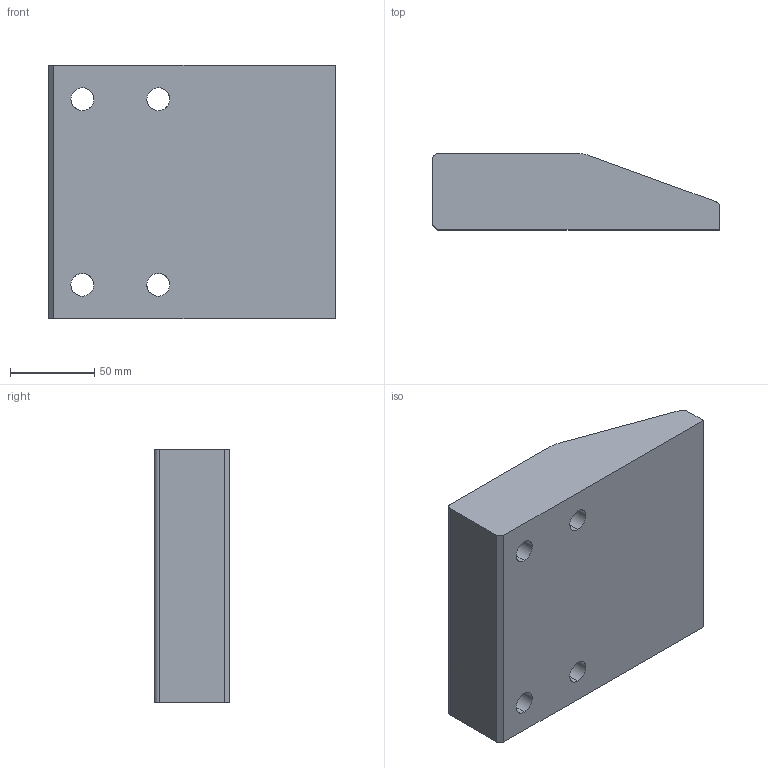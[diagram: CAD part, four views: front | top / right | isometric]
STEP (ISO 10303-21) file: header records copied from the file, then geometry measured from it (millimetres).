
FILE_DESCRIPTION(('CATIA V5 STEP Exchange'),'2;1');
FILE_NAME('C:\Users\Raffaele\Desktop\3D X SITO CF\A935\GSB_OILLESS_G2290115017045\STEP-2.03\A935-15017045.stp','2019-07-12T07:44:16+00:00',('none'),('none'),'CATIA Version 5 Release 20 GA (IN-10)','CATIA V5 STEP AP203','none');
FILE_SCHEMA(('CONFIG_CONTROL_DESIGN'));
Length unit declared in the file: millimetre
Products named in the file (1): A935-15017045
Bounding box: 170 x 45 x 150 mm (x, y, z)
Volume: 924843 mm3; surface area: 81944.4 mm2
Topology: 1 solids, 1 shells, 39 faces, 131 edges, 98 vertices
Faces by surface type: cylinder 19, plane 12, torus 8
Entity records: 1691 total; most frequent: CARTESIAN_POINT 493, ORIENTED_EDGE 262, DIRECTION 193, EDGE_CURVE 131, AXIS2_PLACEMENT_3D 118, VERTEX_POINT 98, CIRCLE 78, EDGE_LOOP 51
